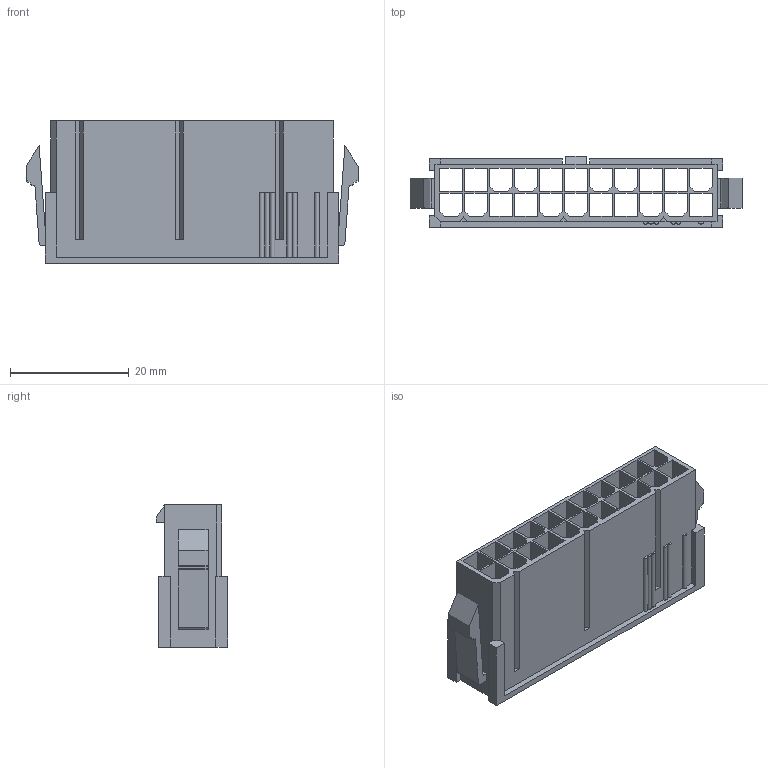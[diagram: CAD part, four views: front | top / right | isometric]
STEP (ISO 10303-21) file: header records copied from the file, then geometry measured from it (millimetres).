
FILE_DESCRIPTION((''),'2;1');
FILE_NAME('039012221','2020-04-06T',('gga'),(''),'PRO/ENGINEER BY PARAMETRIC TECHNOLOGY CORPORATION, 2016010','PRO/ENGINEER BY PARAMETRIC TECHNOLOGY CORPORATION, 2016010','');
FILE_SCHEMA(('CONFIG_CONTROL_DESIGN'));
Length unit declared in the file: millimetre
Products named in the file (1): 039012221
Bounding box: 55.8 x 12 x 23.9 mm (x, y, z)
Volume: 3722.7 mm3; surface area: 11754.8 mm2
Topology: 1 solids, 1 shells, 311 faces, 831 edges, 524 vertices
Faces by surface type: plane 301, cylinder 10
Entity records: 9515 total; most frequent: CARTESIAN_POINT 1667, ORIENTED_EDGE 1662, DIRECTION 1475, EDGE_CURVE 831, VECTOR 811, LINE 811, VERTEX_POINT 524, EDGE_LOOP 357
